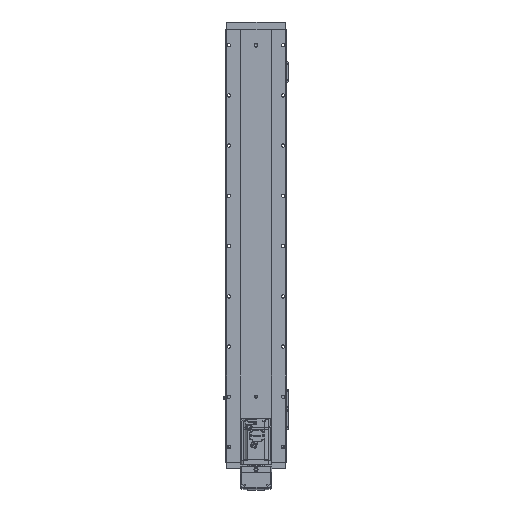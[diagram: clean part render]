
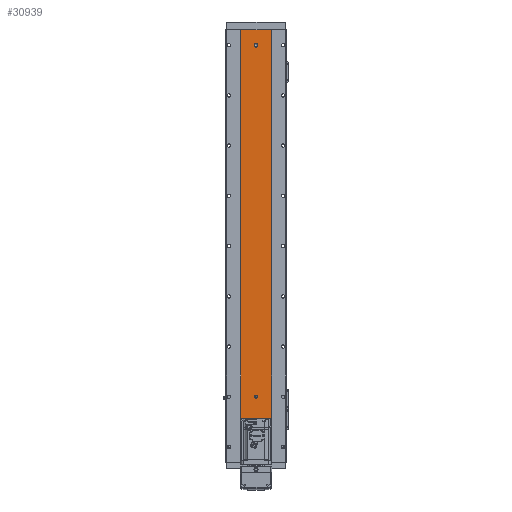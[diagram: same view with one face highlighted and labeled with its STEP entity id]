
A CAD part, front view. The second image highlights one B-rep face of the part: STEP entity #30939.
In plain terms, the highlighted planar face has unit normal (0, -1, 0).
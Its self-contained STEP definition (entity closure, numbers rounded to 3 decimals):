
#2286 = VERTEX_POINT ( 'NONE', #46042 ) ;
#4247 = CARTESIAN_POINT ( 'NONE',  ( -30., 1., 861. ) ) ;
#4659 = CARTESIAN_POINT ( 'NONE',  ( 3., 1., 829. ) ) ;
#6164 = CARTESIAN_POINT ( 'NONE',  ( 30., 1., 861. ) ) ;
#6214 = FACE_BOUND ( 'NONE', #53897, .T. ) ;
#7186 = CIRCLE ( 'NONE', #47859, 3. ) ;
#7365 = CARTESIAN_POINT ( 'NONE',  ( -30., 1., 861. ) ) ;
#7965 = AXIS2_PLACEMENT_3D ( 'NONE', #39430, #56994, #91170 ) ;
#9040 = DIRECTION ( 'NONE',  ( 0., 0., 1. ) ) ;
#9604 = DIRECTION ( 'NONE',  ( 0., 0., -1. ) ) ;
#12834 = DIRECTION ( 'NONE',  ( 0., 0., 1. ) ) ;
#13371 = CARTESIAN_POINT ( 'NONE',  ( 0., 1., 33. ) ) ;
#13807 = AXIS2_PLACEMENT_3D ( 'NONE', #80475, #98522, #26884 ) ;
#17067 = DIRECTION ( 'NONE',  ( 1., 0., 0. ) ) ;
#17459 = CARTESIAN_POINT ( 'NONE',  ( -30., 1., 0. ) ) ;
#18598 = LINE ( 'NONE', #4247, #92695 ) ;
#18719 = FACE_OUTER_BOUND ( 'NONE', #91971, .T. ) ;
#19167 = VERTEX_POINT ( 'NONE', #4659 ) ;
#19623 = EDGE_CURVE ( 'NONE', #38363, #68079, #79839, .T. ) ;
#19880 = LINE ( 'NONE', #83274, #92672 ) ;
#22034 = EDGE_CURVE ( 'NONE', #37972, #61875, #63272, .T. ) ;
#24621 = VERTEX_POINT ( 'NONE', #59896 ) ;
#26884 = DIRECTION ( 'NONE',  ( 0., 0., -1. ) ) ;
#30939 = ADVANCED_FACE ( 'NONE', ( #6214, #103798, #33877, #18719 ), #79235, .F. ) ;
#31750 = VECTOR ( 'NONE', #96544, 1000. ) ;
#33372 = CARTESIAN_POINT ( 'NONE',  ( -30., 1., 0. ) ) ;
#33877 = FACE_BOUND ( 'NONE', #53117, .T. ) ;
#35220 = VERTEX_POINT ( 'NONE', #35270 ) ;
#35270 = CARTESIAN_POINT ( 'NONE',  ( 3., 1., 831. ) ) ;
#36092 = ORIENTED_EDGE ( 'NONE', *, *, #100503, .T. ) ;
#36118 = ORIENTED_EDGE ( 'NONE', *, *, #22034, .T. ) ;
#37446 = VECTOR ( 'NONE', #17067, 1000. ) ;
#37972 = VERTEX_POINT ( 'NONE', #7365 ) ;
#38363 = VERTEX_POINT ( 'NONE', #95551 ) ;
#39296 = ORIENTED_EDGE ( 'NONE', *, *, #19623, .F. ) ;
#39430 = CARTESIAN_POINT ( 'NONE',  ( 0., 1., 829. ) ) ;
#39875 = CIRCLE ( 'NONE', #52387, 3. ) ;
#42502 = AXIS2_PLACEMENT_3D ( 'NONE', #85202, #67175, #49964 ) ;
#43295 = CARTESIAN_POINT ( 'NONE',  ( -30., 1., 861. ) ) ;
#44431 = CARTESIAN_POINT ( 'NONE',  ( -30., 1., 861. ) ) ;
#44805 = AXIS2_PLACEMENT_3D ( 'NONE', #97565, #106020, #53110 ) ;
#46042 = CARTESIAN_POINT ( 'NONE',  ( 0., 1., 27. ) ) ;
#46258 = EDGE_CURVE ( 'NONE', #72637, #93494, #19880, .T. ) ;
#46797 = LINE ( 'NONE', #65419, #49573 ) ;
#47855 = CARTESIAN_POINT ( 'NONE',  ( 0., 1., 133. ) ) ;
#47859 = AXIS2_PLACEMENT_3D ( 'NONE', #76586, #68156, #85431 ) ;
#48814 = CARTESIAN_POINT ( 'NONE',  ( 0., 1., 130. ) ) ;
#49573 = VECTOR ( 'NONE', #12834, 1000. ) ;
#49762 = LINE ( 'NONE', #17459, #37446 ) ;
#49964 = DIRECTION ( 'NONE',  ( 0., 0., -1. ) ) ;
#49978 = ORIENTED_EDGE ( 'NONE', *, *, #75729, .F. ) ;
#52387 = AXIS2_PLACEMENT_3D ( 'NONE', #48814, #57952, #76752 ) ;
#52642 = CARTESIAN_POINT ( 'NONE',  ( 0., 1., 30. ) ) ;
#53110 = DIRECTION ( 'NONE',  ( 0., 0., -1. ) ) ;
#53117 = EDGE_LOOP ( 'NONE', ( #110604, #108279 ) ) ;
#53897 = EDGE_LOOP ( 'NONE', ( #82134, #110941, #49978, #39296, #57809 ) ) ;
#54886 = CIRCLE ( 'NONE', #44805, 3. ) ;
#55329 = DIRECTION ( 'NONE',  ( 1., 0., 0. ) ) ;
#56316 = VERTEX_POINT ( 'NONE', #101981 ) ;
#56994 = DIRECTION ( 'NONE',  ( 0., -1., 0. ) ) ;
#57725 = ORIENTED_EDGE ( 'NONE', *, *, #110531, .F. ) ;
#57809 = ORIENTED_EDGE ( 'NONE', *, *, #59775, .F. ) ;
#57952 = DIRECTION ( 'NONE',  ( 0., -1., 0. ) ) ;
#59775 = EDGE_CURVE ( 'NONE', #35220, #38363, #54886, .T. ) ;
#59896 = CARTESIAN_POINT ( 'NONE',  ( 0., 1., 127. ) ) ;
#61653 = VERTEX_POINT ( 'NONE', #13371 ) ;
#61875 = VERTEX_POINT ( 'NONE', #33372 ) ;
#62663 = ORIENTED_EDGE ( 'NONE', *, *, #101770, .F. ) ;
#63272 = LINE ( 'NONE', #44431, #31750 ) ;
#63671 = AXIS2_PLACEMENT_3D ( 'NONE', #43295, #105738, #9040 ) ;
#64747 = AXIS2_PLACEMENT_3D ( 'NONE', #52642, #69489, #87946 ) ;
#65419 = CARTESIAN_POINT ( 'NONE',  ( 3., 1., 829. ) ) ;
#65841 = EDGE_LOOP ( 'NONE', ( #57725, #99404 ) ) ;
#66673 = EDGE_CURVE ( 'NONE', #61653, #2286, #82807, .T. ) ;
#67175 = DIRECTION ( 'NONE',  ( 0., -1., 0. ) ) ;
#68079 = VERTEX_POINT ( 'NONE', #98890 ) ;
#68156 = DIRECTION ( 'NONE',  ( 0., -1., 0. ) ) ;
#69489 = DIRECTION ( 'NONE',  ( 0., -1., 0. ) ) ;
#70612 = CARTESIAN_POINT ( 'NONE',  ( -3., 1., 829. ) ) ;
#72637 = VERTEX_POINT ( 'NONE', #6164 ) ;
#74766 = VERTEX_POINT ( 'NONE', #47855 ) ;
#75729 = EDGE_CURVE ( 'NONE', #68079, #56316, #90912, .T. ) ;
#76409 = CARTESIAN_POINT ( 'NONE',  ( 30., 1., 0. ) ) ;
#76586 = CARTESIAN_POINT ( 'NONE',  ( 0., 1., 130. ) ) ;
#76752 = DIRECTION ( 'NONE',  ( 0., 0., -1. ) ) ;
#78758 = EDGE_CURVE ( 'NONE', #2286, #61653, #104005, .T. ) ;
#79235 = PLANE ( 'NONE',  #63671 ) ;
#79839 = LINE ( 'NONE', #70612, #94832 ) ;
#80475 = CARTESIAN_POINT ( 'NONE',  ( 0., 1., 829. ) ) ;
#82134 = ORIENTED_EDGE ( 'NONE', *, *, #92247, .F. ) ;
#82807 = CIRCLE ( 'NONE', #42502, 3. ) ;
#83274 = CARTESIAN_POINT ( 'NONE',  ( 30., 1., 861. ) ) ;
#85055 = EDGE_CURVE ( 'NONE', #56316, #19167, #98749, .T. ) ;
#85202 = CARTESIAN_POINT ( 'NONE',  ( 0., 1., 30. ) ) ;
#85431 = DIRECTION ( 'NONE',  ( 0., 0., -1. ) ) ;
#87608 = ORIENTED_EDGE ( 'NONE', *, *, #46258, .F. ) ;
#87946 = DIRECTION ( 'NONE',  ( 0., 0., -1. ) ) ;
#90912 = CIRCLE ( 'NONE', #7965, 3. ) ;
#91170 = DIRECTION ( 'NONE',  ( 0., 0., -1. ) ) ;
#91971 = EDGE_LOOP ( 'NONE', ( #36092, #87608, #62663, #36118 ) ) ;
#92247 = EDGE_CURVE ( 'NONE', #19167, #35220, #46797, .T. ) ;
#92672 = VECTOR ( 'NONE', #110092, 1000. ) ;
#92695 = VECTOR ( 'NONE', #55329, 1000. ) ;
#93494 = VERTEX_POINT ( 'NONE', #76409 ) ;
#94832 = VECTOR ( 'NONE', #9604, 1000. ) ;
#95551 = CARTESIAN_POINT ( 'NONE',  ( -3., 1., 831. ) ) ;
#96544 = DIRECTION ( 'NONE',  ( 0., 0., -1. ) ) ;
#97565 = CARTESIAN_POINT ( 'NONE',  ( 0., 1., 831. ) ) ;
#98522 = DIRECTION ( 'NONE',  ( 0., -1., 0. ) ) ;
#98749 = CIRCLE ( 'NONE', #13807, 3. ) ;
#98890 = CARTESIAN_POINT ( 'NONE',  ( -3., 1., 829. ) ) ;
#99404 = ORIENTED_EDGE ( 'NONE', *, *, #108850, .F. ) ;
#100503 = EDGE_CURVE ( 'NONE', #61875, #93494, #49762, .T. ) ;
#101770 = EDGE_CURVE ( 'NONE', #37972, #72637, #18598, .T. ) ;
#101981 = CARTESIAN_POINT ( 'NONE',  ( 0., 1., 826. ) ) ;
#103798 = FACE_BOUND ( 'NONE', #65841, .T. ) ;
#104005 = CIRCLE ( 'NONE', #64747, 3. ) ;
#105738 = DIRECTION ( 'NONE',  ( 0., 1., 0. ) ) ;
#106020 = DIRECTION ( 'NONE',  ( 0., -1., 0. ) ) ;
#108279 = ORIENTED_EDGE ( 'NONE', *, *, #66673, .F. ) ;
#108850 = EDGE_CURVE ( 'NONE', #74766, #24621, #7186, .T. ) ;
#110092 = DIRECTION ( 'NONE',  ( 0., 0., -1. ) ) ;
#110531 = EDGE_CURVE ( 'NONE', #24621, #74766, #39875, .T. ) ;
#110604 = ORIENTED_EDGE ( 'NONE', *, *, #78758, .F. ) ;
#110941 = ORIENTED_EDGE ( 'NONE', *, *, #85055, .F. ) ;
